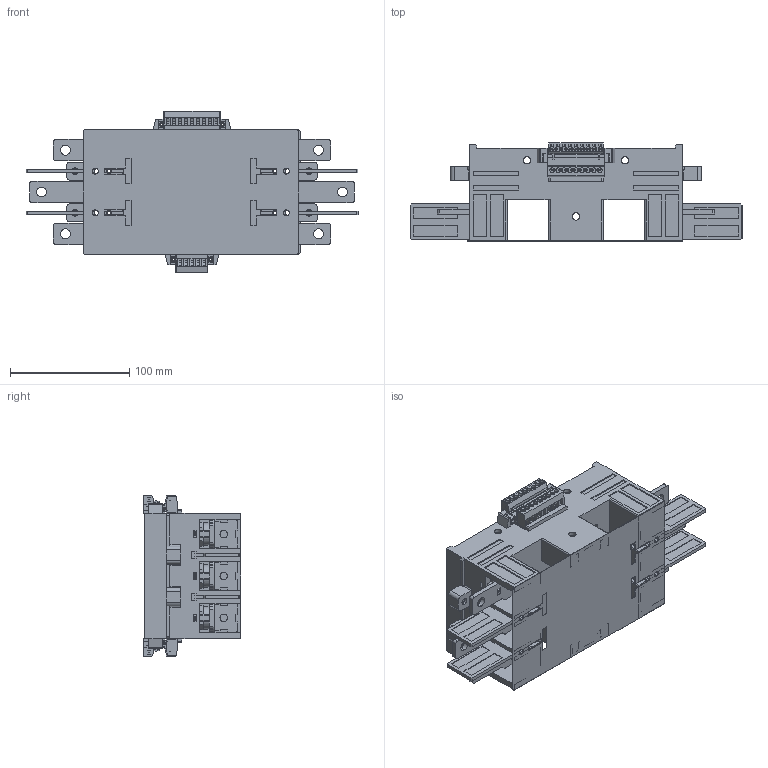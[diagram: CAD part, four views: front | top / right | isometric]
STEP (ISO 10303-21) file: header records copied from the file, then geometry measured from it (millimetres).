
FILE_DESCRIPTION (( 'STEP AP203' ), '1' );
FILE_NAME ('NDM5-250-3P-P1FH-等蜇璃.STEP', '2024-09-26T05:04:50', ( 'A' ), ( '' ), 'SwSTEP 2.0', 'SolidWorks 2018', '' );
FILE_SCHEMA (( 'CONFIG_CONTROL_DESIGN' ));
Length unit declared in the file: millimetre
Products named in the file (1): NDM5-250-3P-P1FH-等蜇璃__t__t
Bounding box: 278 x 82 x 135.2 mm (x, y, z)
Volume: 430198.9 mm3; surface area: 344682.2 mm2
Topology: 28 solids, 28 shells, 3608 faces, 9646 edges, 6312 vertices
Faces by surface type: plane 2382, cylinder 1106, cone 68, torus 52
Entity records: 112317 total; most frequent: CARTESIAN_POINT 19723, ORIENTED_EDGE 19268, DIRECTION 19244, EDGE_CURVE 9634, VECTOR 7130, LINE 7130, VERTEX_POINT 6312, AXIS2_PLACEMENT_3D 6057
